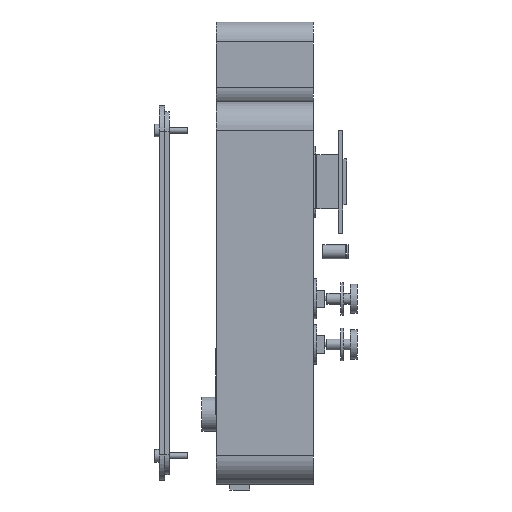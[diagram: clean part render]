
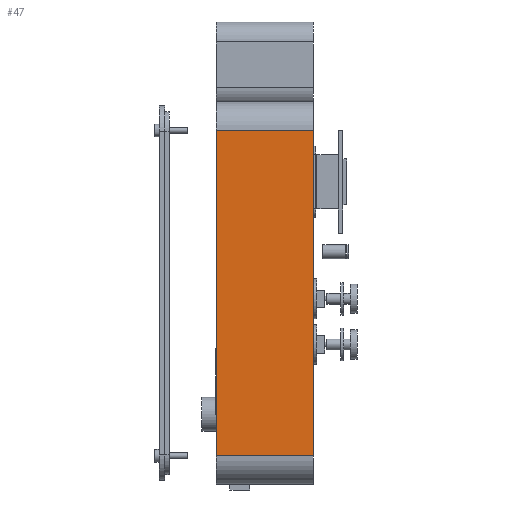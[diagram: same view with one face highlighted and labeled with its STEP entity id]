
A CAD part, left-side view. The second image highlights one B-rep face of the part: STEP entity #47.
In plain terms, the highlighted planar face has unit normal (-1, 0, 0).
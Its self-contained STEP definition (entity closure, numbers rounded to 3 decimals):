
#47 = ADVANCED_FACE('',(#48),#62,.T.);
#48 = FACE_BOUND('',#49,.T.);
#49 = EDGE_LOOP('',(#50,#85,#113,#141));
#50 = ORIENTED_EDGE('',*,*,#51,.T.);
#51 = EDGE_CURVE('',#52,#54,#56,.T.);
#52 = VERTEX_POINT('',#53);
#53 = CARTESIAN_POINT('',(-50.,17.,10.));
#54 = VERTEX_POINT('',#55);
#55 = CARTESIAN_POINT('',(-50.,-17.,10.));
#56 = SURFACE_CURVE('',#57,(#61,#73),.PCURVE_S1.);
#57 = LINE('',#58,#59);
#58 = CARTESIAN_POINT('',(-50.,17.,10.));
#59 = VECTOR('',#60,1.);
#60 = DIRECTION('',(0.,-1.,0.));
#61 = PCURVE('',#62,#67);
#62 = PLANE('',#63);
#63 = AXIS2_PLACEMENT_3D('',#64,#65,#66);
#64 = CARTESIAN_POINT('',(-50.,17.,10.));
#65 = DIRECTION('',(-1.,0.,0.));
#66 = DIRECTION('',(0.,0.,1.));
#67 = DEFINITIONAL_REPRESENTATION('',(#68),#72);
#68 = LINE('',#69,#70);
#69 = CARTESIAN_POINT('',(0.,0.));
#70 = VECTOR('',#71,1.);
#71 = DIRECTION('',(0.,-1.));
#72 = ( GEOMETRIC_REPRESENTATION_CONTEXT(2) 
PARAMETRIC_REPRESENTATION_CONTEXT() REPRESENTATION_CONTEXT('2D SPACE',''
  ) );
#73 = PCURVE('',#74,#79);
#74 = CYLINDRICAL_SURFACE('',#75,10.);
#75 = AXIS2_PLACEMENT_3D('',#76,#77,#78);
#76 = CARTESIAN_POINT('',(-40.,17.,10.));
#77 = DIRECTION('',(0.,1.,0.));
#78 = DIRECTION('',(1.,0.,0.));
#79 = DEFINITIONAL_REPRESENTATION('',(#80),#84);
#80 = LINE('',#81,#82);
#81 = CARTESIAN_POINT('',(-3.142,0.));
#82 = VECTOR('',#83,1.);
#83 = DIRECTION('',(-0.,-1.));
#84 = ( GEOMETRIC_REPRESENTATION_CONTEXT(2) 
PARAMETRIC_REPRESENTATION_CONTEXT() REPRESENTATION_CONTEXT('2D SPACE',''
  ) );
#85 = ORIENTED_EDGE('',*,*,#86,.T.);
#86 = EDGE_CURVE('',#54,#87,#89,.T.);
#87 = VERTEX_POINT('',#88);
#88 = CARTESIAN_POINT('',(-50.,-17.,124.));
#89 = SURFACE_CURVE('',#90,(#94,#101),.PCURVE_S1.);
#90 = LINE('',#91,#92);
#91 = CARTESIAN_POINT('',(-50.,-17.,67.));
#92 = VECTOR('',#93,1.);
#93 = DIRECTION('',(0.,0.,1.));
#94 = PCURVE('',#62,#95);
#95 = DEFINITIONAL_REPRESENTATION('',(#96),#100);
#96 = LINE('',#97,#98);
#97 = CARTESIAN_POINT('',(57.,-34.));
#98 = VECTOR('',#99,1.);
#99 = DIRECTION('',(1.,0.));
#100 = ( GEOMETRIC_REPRESENTATION_CONTEXT(2) 
PARAMETRIC_REPRESENTATION_CONTEXT() REPRESENTATION_CONTEXT('2D SPACE',''
  ) );
#101 = PCURVE('',#102,#107);
#102 = PLANE('',#103);
#103 = AXIS2_PLACEMENT_3D('',#104,#105,#106);
#104 = CARTESIAN_POINT('',(0.,-17.,67.));
#105 = DIRECTION('',(0.,-1.,0.));
#106 = DIRECTION('',(1.,0.,0.));
#107 = DEFINITIONAL_REPRESENTATION('',(#108),#112);
#108 = LINE('',#109,#110);
#109 = CARTESIAN_POINT('',(-50.,0.));
#110 = VECTOR('',#111,1.);
#111 = DIRECTION('',(0.,1.));
#112 = ( GEOMETRIC_REPRESENTATION_CONTEXT(2) 
PARAMETRIC_REPRESENTATION_CONTEXT() REPRESENTATION_CONTEXT('2D SPACE',''
  ) );
#113 = ORIENTED_EDGE('',*,*,#114,.F.);
#114 = EDGE_CURVE('',#115,#87,#117,.T.);
#115 = VERTEX_POINT('',#116);
#116 = CARTESIAN_POINT('',(-50.,17.,124.));
#117 = SURFACE_CURVE('',#118,(#122,#129),.PCURVE_S1.);
#118 = LINE('',#119,#120);
#119 = CARTESIAN_POINT('',(-50.,17.,124.));
#120 = VECTOR('',#121,1.);
#121 = DIRECTION('',(0.,-1.,0.));
#122 = PCURVE('',#62,#123);
#123 = DEFINITIONAL_REPRESENTATION('',(#124),#128);
#124 = LINE('',#125,#126);
#125 = CARTESIAN_POINT('',(114.,0.));
#126 = VECTOR('',#127,1.);
#127 = DIRECTION('',(0.,-1.));
#128 = ( GEOMETRIC_REPRESENTATION_CONTEXT(2) 
PARAMETRIC_REPRESENTATION_CONTEXT() REPRESENTATION_CONTEXT('2D SPACE',''
  ) );
#129 = PCURVE('',#130,#135);
#130 = CYLINDRICAL_SURFACE('',#131,10.);
#131 = AXIS2_PLACEMENT_3D('',#132,#133,#134);
#132 = CARTESIAN_POINT('',(-40.,17.,124.));
#133 = DIRECTION('',(0.,1.,0.));
#134 = DIRECTION('',(1.,0.,0.));
#135 = DEFINITIONAL_REPRESENTATION('',(#136),#140);
#136 = LINE('',#137,#138);
#137 = CARTESIAN_POINT('',(-3.142,0.));
#138 = VECTOR('',#139,1.);
#139 = DIRECTION('',(-0.,-1.));
#140 = ( GEOMETRIC_REPRESENTATION_CONTEXT(2) 
PARAMETRIC_REPRESENTATION_CONTEXT() REPRESENTATION_CONTEXT('2D SPACE',''
  ) );
#141 = ORIENTED_EDGE('',*,*,#142,.F.);
#142 = EDGE_CURVE('',#52,#115,#143,.T.);
#143 = SURFACE_CURVE('',#144,(#148,#155),.PCURVE_S1.);
#144 = LINE('',#145,#146);
#145 = CARTESIAN_POINT('',(-50.,17.,67.));
#146 = VECTOR('',#147,1.);
#147 = DIRECTION('',(0.,0.,1.));
#148 = PCURVE('',#62,#149);
#149 = DEFINITIONAL_REPRESENTATION('',(#150),#154);
#150 = LINE('',#151,#152);
#151 = CARTESIAN_POINT('',(57.,0.));
#152 = VECTOR('',#153,1.);
#153 = DIRECTION('',(1.,0.));
#154 = ( GEOMETRIC_REPRESENTATION_CONTEXT(2) 
PARAMETRIC_REPRESENTATION_CONTEXT() REPRESENTATION_CONTEXT('2D SPACE',''
  ) );
#155 = PCURVE('',#156,#161);
#156 = PLANE('',#157);
#157 = AXIS2_PLACEMENT_3D('',#158,#159,#160);
#158 = CARTESIAN_POINT('',(0.,17.,67.));
#159 = DIRECTION('',(0.,-1.,0.));
#160 = DIRECTION('',(1.,0.,0.));
#161 = DEFINITIONAL_REPRESENTATION('',(#162),#166);
#162 = LINE('',#163,#164);
#163 = CARTESIAN_POINT('',(-50.,0.));
#164 = VECTOR('',#165,1.);
#165 = DIRECTION('',(0.,1.));
#166 = ( GEOMETRIC_REPRESENTATION_CONTEXT(2) 
PARAMETRIC_REPRESENTATION_CONTEXT() REPRESENTATION_CONTEXT('2D SPACE',''
  ) );
